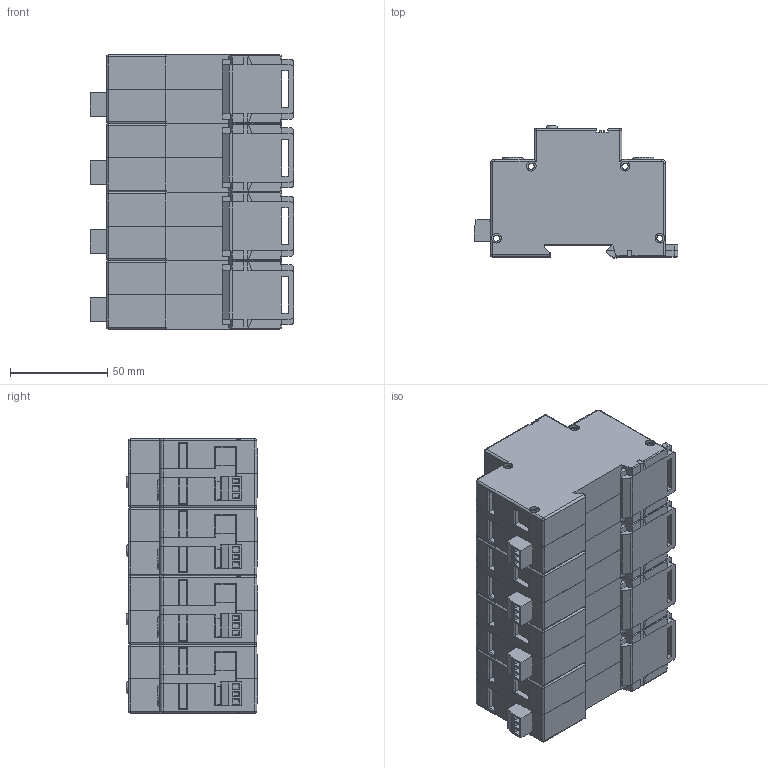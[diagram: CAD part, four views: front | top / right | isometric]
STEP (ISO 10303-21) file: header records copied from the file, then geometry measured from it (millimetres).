
FILE_DESCRIPTION(/* description */ (''),/* implementation_level */ '2;1');
FILE_NAME(/* name */ 'HLA50 4+0 S.stp',/* time_stamp */ '2024-08-02T09:27:26+02:00',/* author */ ('miko'),/* organization */ (''),/* preprocessor_version */ 'ST-DEVELOPER v20',/* originating_system */ 'Autodesk Inventor 2024',/* authorisation */ '');
FILE_SCHEMA (('AUTOMOTIVE_DESIGN { 1 0 10303 214 3 1 1 }'));
Length unit declared in the file: millimetre
Products named in the file (8): HLA50 4+0 S; HLA50 S; HLA50 S_1; HLA S (Z); HLA S (Z)_1; DIN 7985 (H) - M6x10-H; 15EDGK - 3.81 3P (RAL 2012); 15EDGRC - 3.81 3P (RAL 2012) (OBRÁCENÉ VÝV
ODY)
Assembly tree (13 placements, depth 3):
  HLA50 4+0 S
    HLA50 S  x2
      HLA50 S_1
      DIN 7985 (H) - M6x10-H
      15EDGK - 3.81 3P (RAL 2012)
      15EDGRC - 3.81 3P (RAL 2012) (OBRÁCENÉ VÝV
ODY)
    HLA S (Z)  x2
      HLA S (Z)_1
      DIN 7985 (H) - M6x10-H
      15EDGK - 3.81 3P (RAL 2012)
      15EDGRC - 3.81 3P (RAL 2012) (OBRÁCENÉ VÝV
ODY)
Bounding box: 104.8 x 67.7 x 140.8 mm (x, y, z)
Volume: 700760.4 mm3; surface area: 115066.6 mm2
Topology: 18 solids, 36 shells, 2666 faces, 6934 edges, 4434 vertices
Faces by surface type: plane 1942, cylinder 508, cone 110, torus 44, bspline 32, sphere 30
Full cylindrical faces by diameter (mm): 0.968 x12, 1 x24, 1.9 x12, 2 x12, 2.5 x12, 3.2 x16, 5 x32, 5.5 x6, 6 x6, 8 x8
Entity records: 32016 total; most frequent: CARTESIAN_POINT 5739, ORIENTED_EDGE 5428, DIRECTION 5330, EDGE_CURVE 2714, LINE 2106, VECTOR 2106, VERTEX_POINT 1721, AXIS2_PLACEMENT_3D 1612
